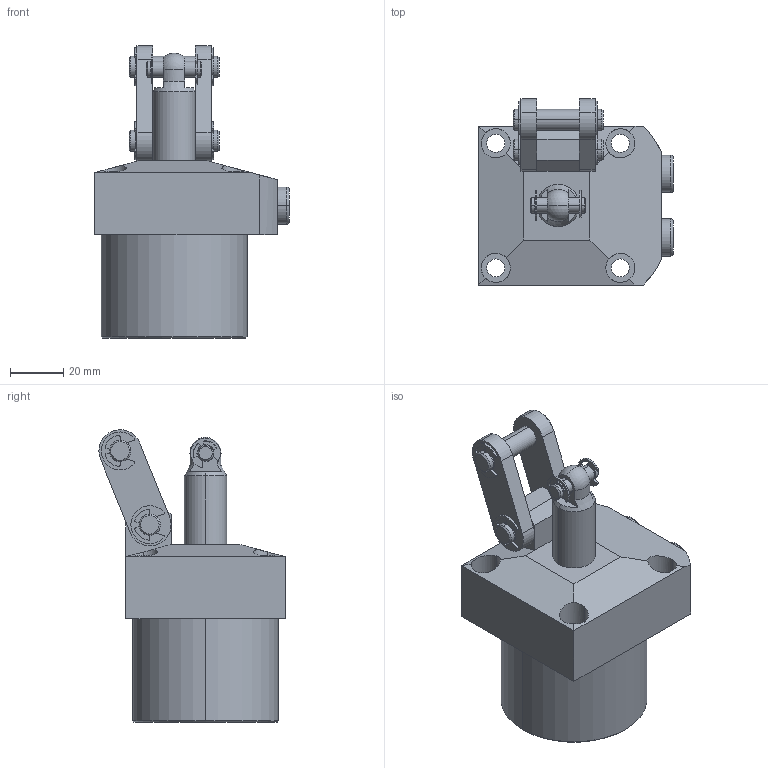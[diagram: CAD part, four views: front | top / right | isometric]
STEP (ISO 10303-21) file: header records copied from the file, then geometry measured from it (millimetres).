
FILE_DESCRIPTION (( 'STEP AP203' ), '1' );
FILE_NAME ('4171 421 R.STEP', '2017-11-21T11:56:20', ( '' ), ( '' ), 'SwSTEP 2.0', 'SolidWorks 2015', '' );
FILE_SCHEMA (( 'CONFIG_CONTROL_DESIGN' ));
Length unit declared in the file: millimetre
Products named in the file (8): LINK; PIN 1; PIN 2; (type e)_is_IS 3075(Part3) - 5; (type e)_is_IS 3075(Part3) - 7; 4171 421 R; BODY_4171 421 R; pr
Assembly tree (13 placements, depth 2):
  4171 421 R
    BODY_4171 421 R
    pr
    LINK  x2
    PIN 1
    PIN 2  x2
    (type e)_is_IS 3075(Part3) - 5  x2
    (type e)_is_IS 3075(Part3) - 7  x4
Bounding box: 73.5 x 70.21 x 110.32 mm (x, y, z)
Volume: 209734.6 mm3; surface area: 36441.2 mm2
Topology: 13 solids, 13 shells, 367 faces, 913 edges, 589 vertices
Faces by surface type: cylinder 194, plane 127, cone 40, torus 4, sphere 2
Entity records: 8046 total; most frequent: CARTESIAN_POINT 1363, DIRECTION 1282, ORIENTED_EDGE 1128, EDGE_CURVE 564, AXIS2_PLACEMENT_3D 500, VERTEX_POINT 361, VECTOR 282, LINE 282
